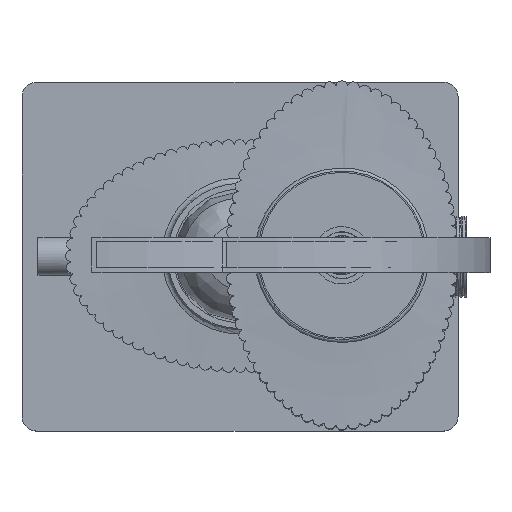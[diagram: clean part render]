
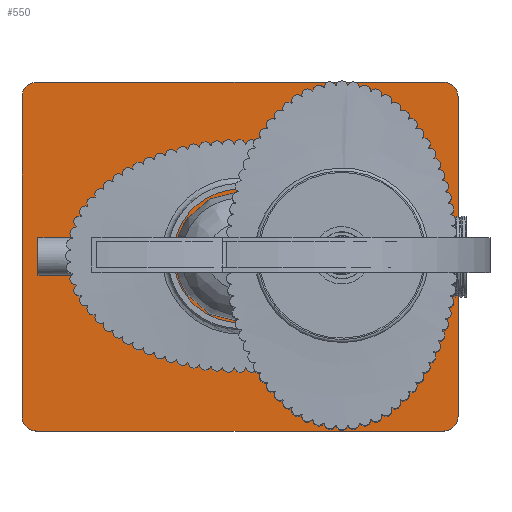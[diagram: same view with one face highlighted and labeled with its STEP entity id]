
A CAD part, top view. The second image highlights one B-rep face of the part: STEP entity #550.
In plain terms, the highlighted planar face has unit normal (0, 0, 1).
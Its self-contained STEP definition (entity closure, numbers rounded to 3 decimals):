
#550 = ADVANCED_FACE( '', ( #1341, #1342 ), #1343, .F. );
#1341 = FACE_OUTER_BOUND( '', #4183, .T. );
#1342 = FACE_BOUND( '', #4184, .T. );
#1343 = PLANE( '', #4185 );
#4183 = EDGE_LOOP( '', ( #7125, #7126, #7127, #7128, #7129, #7130, #7131, #7132 ) );
#4184 = EDGE_LOOP( '', ( #7133 ) );
#4185 = AXIS2_PLACEMENT_3D( '', #7134, #7135, #7136 );
#7125 = ORIENTED_EDGE( '', *, *, #10000, .F. );
#7126 = ORIENTED_EDGE( '', *, *, #10001, .T. );
#7127 = ORIENTED_EDGE( '', *, *, #10002, .F. );
#7128 = ORIENTED_EDGE( '', *, *, #10003, .T. );
#7129 = ORIENTED_EDGE( '', *, *, #10004, .F. );
#7130 = ORIENTED_EDGE( '', *, *, #10005, .T. );
#7131 = ORIENTED_EDGE( '', *, *, #10006, .F. );
#7132 = ORIENTED_EDGE( '', *, *, #10007, .T. );
#7133 = ORIENTED_EDGE( '', *, *, #10008, .T. );
#7134 = CARTESIAN_POINT( '', ( -75., 60., 10. ) );
#7135 = DIRECTION( '', ( 0., 0., -1. ) );
#7136 = DIRECTION( '', ( -1., 0., 0. ) );
#10000 = EDGE_CURVE( '', #11663, #11664, #11665, .T. );
#10001 = EDGE_CURVE( '', #11663, #11666, #11667, .F. );
#10002 = EDGE_CURVE( '', #11668, #11666, #11669, .T. );
#10003 = EDGE_CURVE( '', #11668, #11670, #11671, .F. );
#10004 = EDGE_CURVE( '', #11672, #11670, #11673, .T. );
#10005 = EDGE_CURVE( '', #11672, #11674, #11675, .F. );
#10006 = EDGE_CURVE( '', #11676, #11674, #11677, .T. );
#10007 = EDGE_CURVE( '', #11676, #11664, #11678, .F. );
#10008 = EDGE_CURVE( '', #11679, #11679, #11680, .T. );
#11663 = VERTEX_POINT( '', #16120 );
#11664 = VERTEX_POINT( '', #16121 );
#11665 = LINE( '', #16122, #16123 );
#11666 = VERTEX_POINT( '', #16124 );
#11667 = CIRCLE( '', #16125, 5. );
#11668 = VERTEX_POINT( '', #16126 );
#11669 = LINE( '', #16127, #16128 );
#11670 = VERTEX_POINT( '', #16129 );
#11671 = CIRCLE( '', #16130, 5. );
#11672 = VERTEX_POINT( '', #16131 );
#11673 = LINE( '', #16132, #16133 );
#11674 = VERTEX_POINT( '', #16134 );
#11675 = CIRCLE( '', #16135, 5. );
#11676 = VERTEX_POINT( '', #16136 );
#11677 = LINE( '', #16137, #16138 );
#11678 = CIRCLE( '', #16139, 5. );
#11679 = VERTEX_POINT( '', #16140 );
#11680 = CIRCLE( '', #16141, 5.5 );
#16120 = CARTESIAN_POINT( '', ( 70., -60., 10. ) );
#16121 = CARTESIAN_POINT( '', ( -70., -60., 10. ) );
#16122 = CARTESIAN_POINT( '', ( 75., -60., 10. ) );
#16123 = VECTOR( '', #20896, 1000. );
#16124 = CARTESIAN_POINT( '', ( 75., -55., 10. ) );
#16125 = AXIS2_PLACEMENT_3D( '', #20897, #20898, #20899 );
#16126 = CARTESIAN_POINT( '', ( 75., 55., 10. ) );
#16127 = CARTESIAN_POINT( '', ( 75., 60., 10. ) );
#16128 = VECTOR( '', #20900, 1000. );
#16129 = CARTESIAN_POINT( '', ( 70., 60., 10. ) );
#16130 = AXIS2_PLACEMENT_3D( '', #20901, #20902, #20903 );
#16131 = CARTESIAN_POINT( '', ( -70., 60., 10. ) );
#16132 = CARTESIAN_POINT( '', ( -75., 60., 10. ) );
#16133 = VECTOR( '', #20904, 1000. );
#16134 = CARTESIAN_POINT( '', ( -75., 55., 10. ) );
#16135 = AXIS2_PLACEMENT_3D( '', #20905, #20906, #20907 );
#16136 = CARTESIAN_POINT( '', ( -75., -55., 10. ) );
#16137 = CARTESIAN_POINT( '', ( -75., -60., 10. ) );
#16138 = VECTOR( '', #20908, 1000. );
#16139 = AXIS2_PLACEMENT_3D( '', #20909, #20910, #20911 );
#16140 = CARTESIAN_POINT( '', ( -39.5, 0., 10. ) );
#16141 = AXIS2_PLACEMENT_3D( '', #20912, #20913, #20914 );
#20896 = DIRECTION( '', ( -1., 0., 0. ) );
#20897 = CARTESIAN_POINT( '', ( 70., -55., 10. ) );
#20898 = DIRECTION( '', ( 0., 0., -1. ) );
#20899 = DIRECTION( '', ( -1., 0., 0. ) );
#20900 = DIRECTION( '', ( 0., -1., 0. ) );
#20901 = CARTESIAN_POINT( '', ( 70., 55., 10. ) );
#20902 = DIRECTION( '', ( 0., 0., -1. ) );
#20903 = DIRECTION( '', ( -1., 0., 0. ) );
#20904 = DIRECTION( '', ( 1., 0., 0. ) );
#20905 = CARTESIAN_POINT( '', ( -70., 55., 10. ) );
#20906 = DIRECTION( '', ( 0., 0., -1. ) );
#20907 = DIRECTION( '', ( -1., 0., 0. ) );
#20908 = DIRECTION( '', ( 0., 1., 0. ) );
#20909 = CARTESIAN_POINT( '', ( -70., -55., 10. ) );
#20910 = DIRECTION( '', ( 0., 0., -1. ) );
#20911 = DIRECTION( '', ( -1., 0., 0. ) );
#20912 = CARTESIAN_POINT( '', ( -45., 0., 10. ) );
#20913 = DIRECTION( '', ( 0., 0., -1. ) );
#20914 = DIRECTION( '', ( 1., 0., 0. ) );
